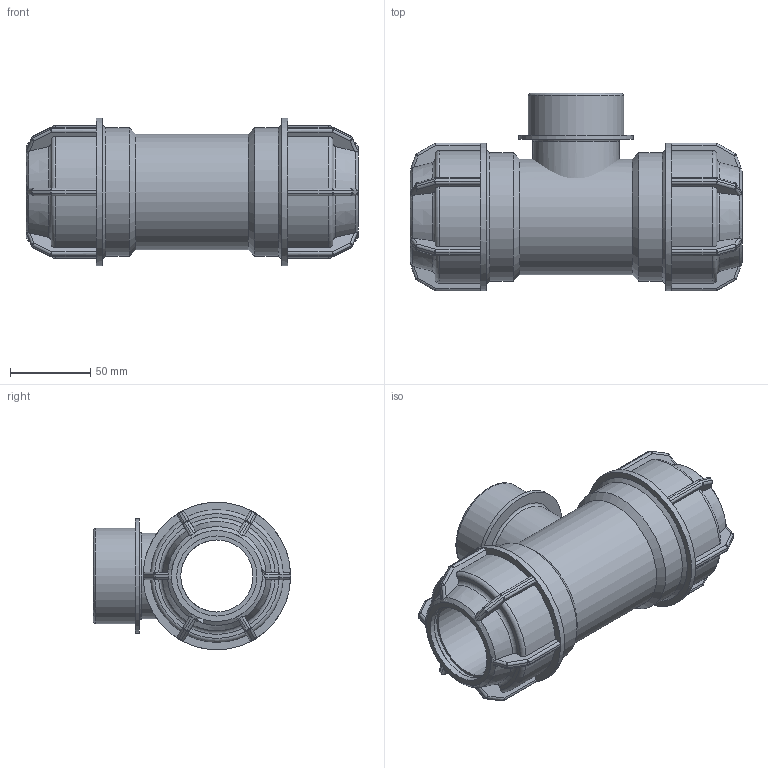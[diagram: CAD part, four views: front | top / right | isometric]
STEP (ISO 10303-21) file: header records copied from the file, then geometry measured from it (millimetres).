
FILE_DESCRIPTION(/* description */ ('PLASSON L.14 TEE MALE ADAPTOR (SILVER) 50-2"-50'),/* implementation_level */ '2;1');
FILE_NAME(/* name */ 'C:\Dropbox\KIMPROJECTS-Inventor\99-16-3568-Processing\Silver+MF ISRAEL\148400\148400050020.ipt.stp',/* time_stamp */ '2018-04-09T13:05:38+03:00',/* author */ ('KIM'),/* organization */ (''),/* preprocessor_version */ 'ST-DEVELOPER v15.6',/* originating_system */ 'Autodesk Inventor 2015',/* authorisation */ '');
FILE_SCHEMA (('AUTOMOTIVE_DESIGN { 1 0 10303 214 3 1 1 }'));
Length unit declared in the file: millimetre
Products named in the file (1): 148400050020
Bounding box: 207 x 123 x 92 mm (x, y, z)
Volume: 612739.4 mm3; surface area: 121594.3 mm2
Topology: 2 solids, 2 shells, 416 faces, 978 edges, 564 vertices
Faces by surface type: plane 196, cylinder 124, sphere 48, torus 30, cone 18
Full cylindrical faces by diameter (mm): 45 x3, 50 x4, 53.653 x1, 59.614 x1, 71.537 x1, 72 x1, 80 x2, 92 x2
Entity records: 12197 total; most frequent: CARTESIAN_POINT 3230, DIRECTION 1886, ORIENTED_EDGE 1836, EDGE_CURVE 918, AXIS2_PLACEMENT_3D 762, VERTEX_POINT 544, EDGE_LOOP 454, FACE_OUTER_BOUND 413
